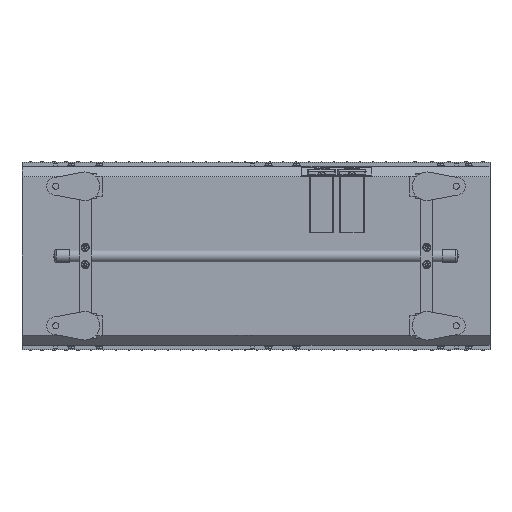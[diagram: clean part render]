
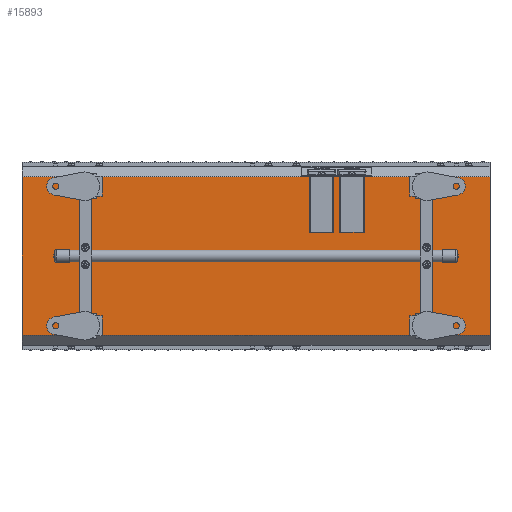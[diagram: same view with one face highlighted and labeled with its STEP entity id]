
A CAD part, front view. The second image highlights one B-rep face of the part: STEP entity #15893.
In plain terms, the highlighted planar face has unit normal (0, -1, 0).
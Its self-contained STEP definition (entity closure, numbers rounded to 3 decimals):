
#204 = CARTESIAN_POINT ( 'NONE',  ( 1439.709, -215.213, 169.787 ) ) ;
#1191 = CARTESIAN_POINT ( 'NONE',  ( 0., -215.213, -169.787 ) ) ;
#1820 = EDGE_CURVE ( 'NONE', #14549, #3563, #43988, .T. ) ;
#1960 = CARTESIAN_POINT ( 'NONE',  ( 0., -215.213, 169.787 ) ) ;
#2297 = VECTOR ( 'NONE', #4148, 1000. ) ;
#3471 = VERTEX_POINT ( 'NONE', #59354 ) ;
#3563 = VERTEX_POINT ( 'NONE', #9402 ) ;
#4148 = DIRECTION ( 'NONE',  ( -1., 0., 0. ) ) ;
#4603 = DIRECTION ( 'NONE',  ( 0., 1., 0. ) ) ;
#5760 = EDGE_CURVE ( 'NONE', #3471, #14549, #35905, .T. ) ;
#9402 = CARTESIAN_POINT ( 'NONE',  ( 0., -215.213, 169.787 ) ) ;
#10204 = LINE ( 'NONE', #1960, #25898 ) ;
#10953 = ORIENTED_EDGE ( 'NONE', *, *, #14576, .T. ) ;
#11424 = CARTESIAN_POINT ( 'NONE',  ( 1000., -215.213, 169.787 ) ) ;
#11810 = AXIS2_PLACEMENT_3D ( 'NONE', #204, #4603, #45604 ) ;
#13193 = CARTESIAN_POINT ( 'NONE',  ( 1439.709, -215.213, 169.787 ) ) ;
#14549 = VERTEX_POINT ( 'NONE', #11424 ) ;
#14576 = EDGE_CURVE ( 'NONE', #3563, #17865, #10204, .T. ) ;
#15340 = EDGE_CURVE ( 'NONE', #3471, #17865, #41677, .T. ) ;
#15893 = ADVANCED_FACE ( 'NONE', ( #37362 ), #36547, .F. ) ;
#17865 = VERTEX_POINT ( 'NONE', #1191 ) ;
#17927 = VECTOR ( 'NONE', #56849, 1000. ) ;
#19061 = ORIENTED_EDGE ( 'NONE', *, *, #15340, .F. ) ;
#20520 = CARTESIAN_POINT ( 'NONE',  ( 1000., -215.213, 169.787 ) ) ;
#23971 = ORIENTED_EDGE ( 'NONE', *, *, #1820, .T. ) ;
#24200 = ORIENTED_EDGE ( 'NONE', *, *, #5760, .T. ) ;
#24913 = EDGE_LOOP ( 'NONE', ( #19061, #24200, #23971, #10953 ) ) ;
#25898 = VECTOR ( 'NONE', #57947, 1000. ) ;
#35905 = LINE ( 'NONE', #20520, #17927 ) ;
#36218 = DIRECTION ( 'NONE',  ( -1., 0., 0. ) ) ;
#36414 = CARTESIAN_POINT ( 'NONE',  ( 1000., -215.213, -169.787 ) ) ;
#36547 = PLANE ( 'NONE',  #11810 ) ;
#37362 = FACE_OUTER_BOUND ( 'NONE', #24913, .T. ) ;
#41677 = LINE ( 'NONE', #36414, #58887 ) ;
#43988 = LINE ( 'NONE', #13193, #2297 ) ;
#45604 = DIRECTION ( 'NONE',  ( 0., 0., 1. ) ) ;
#56849 = DIRECTION ( 'NONE',  ( 0., 0., 1. ) ) ;
#57947 = DIRECTION ( 'NONE',  ( 0., 0., -1. ) ) ;
#58887 = VECTOR ( 'NONE', #36218, 1000. ) ;
#59354 = CARTESIAN_POINT ( 'NONE',  ( 1000., -215.213, -169.787 ) ) ;
